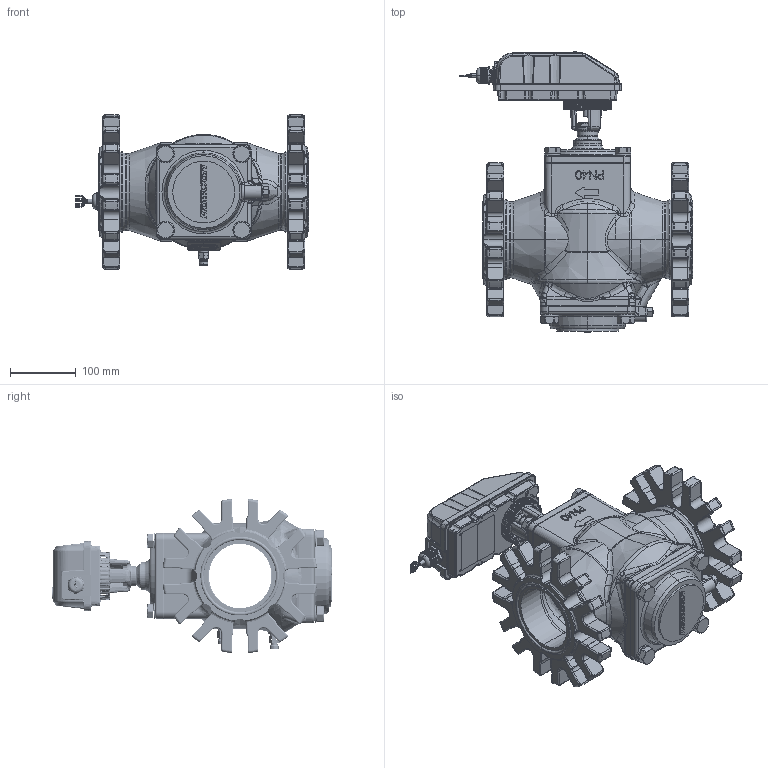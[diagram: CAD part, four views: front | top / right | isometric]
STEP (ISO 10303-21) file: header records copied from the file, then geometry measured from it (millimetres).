
FILE_DESCRIPTION (( 'STEP AP203' ), '1' );
FILE_NAME ('SM.4.1.B.3.0.0.0.STEP', '2025-09-25T06:40:43', ( '' ), ( '' ), 'SwSTEP 2.0', 'SolidWorks 2025', '' );
FILE_SCHEMA (( 'CONFIG_CONTROL_DESIGN' ));
Products named in the file (1): SM.4.1.B.3.0.0.0
Bounding box: 354.34 x 426.1 x 234.3 mm (x, y, z)
Surface area: 643769.3 mm2 (no closed solid volume)
Topology: 0 solids, 239 shells, 4241 faces, 14314 edges, 10011 vertices
Faces by surface type: cylinder 1390, bspline 1004, plane 878, torus 567, cone 313, sphere 89
Entity records: 231658 total; most frequent: CARTESIAN_POINT 121896, ORIENTED_EDGE 23192, DIRECTION 19709, EDGE_CURVE 14216, VERTEX_POINT 10006, AXIS2_PLACEMENT_3D 7730, B_SPLINE_CURVE_WITH_KNOTS 4909, EDGE_LOOP 4499
